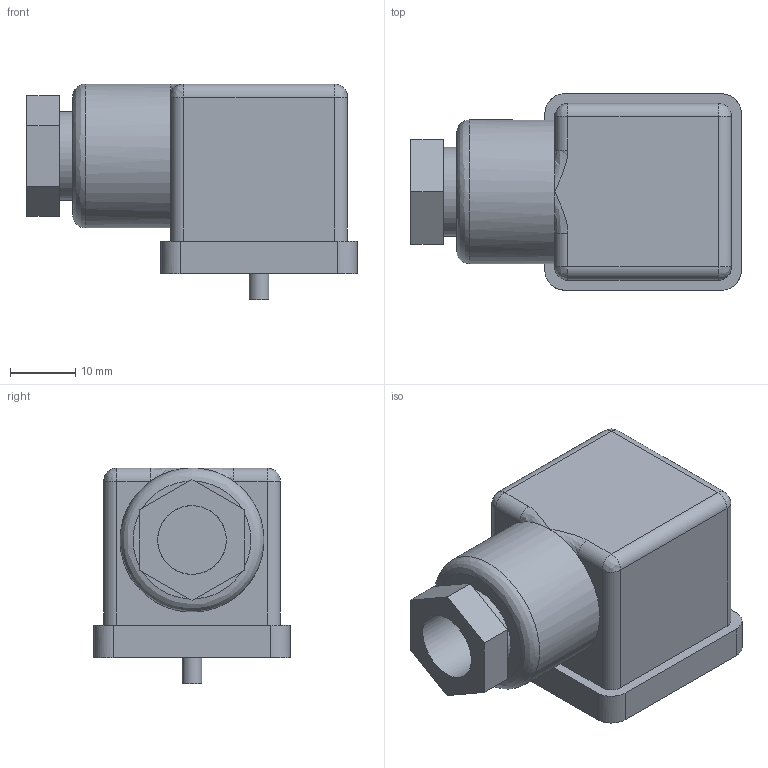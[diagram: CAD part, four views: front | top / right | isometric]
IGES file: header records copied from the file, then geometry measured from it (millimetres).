
Global section: file name: 300_11_0#L; native system: Autodesk Inventor 2014; preprocessor: unknown; author: M.Valota; organization: Pneumax S.p.A.; date: 20161004.164614; units: millimetre
Bounding box: 50.5 x 30 x 33 mm (x, y, z)
Volume: 28002.5 mm3; surface area: 6642.5 mm2
Topology: 1 solids, 1 shells, 46 faces, 106 edges, 61 vertices
Faces by surface type: bspline 46
